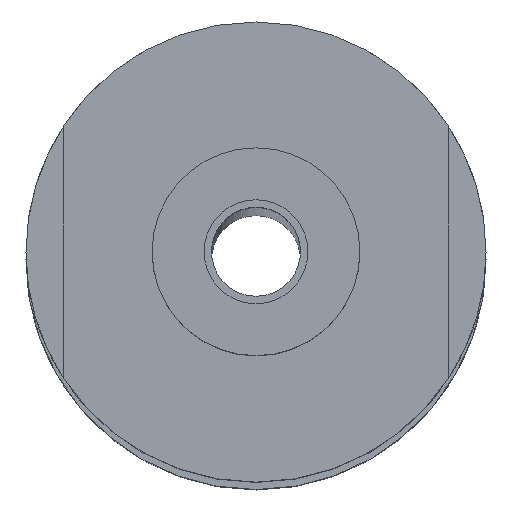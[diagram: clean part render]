
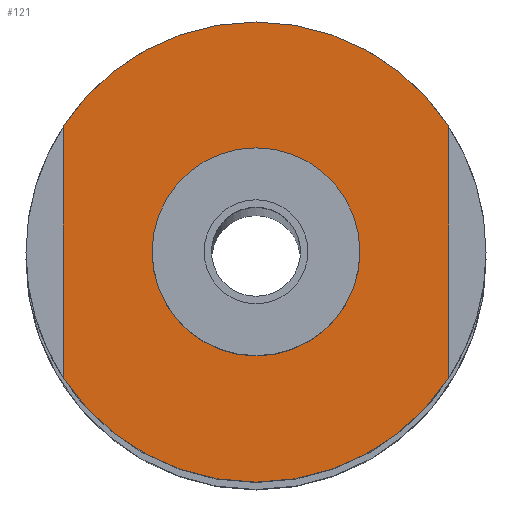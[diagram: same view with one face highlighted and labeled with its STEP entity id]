
A CAD part, top view. The second image highlights one B-rep face of the part: STEP entity #121.
In plain terms, the highlighted planar face has unit normal (0, 0, 1).
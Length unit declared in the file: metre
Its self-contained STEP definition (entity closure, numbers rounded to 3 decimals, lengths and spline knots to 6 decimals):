
#121=ADVANCED_FACE('37:1511',(#238,#239),#240,.T.);
#238=FACE_OUTER_BOUND('',#364,.T.);
#239=FACE_BOUND('',#365,.T.);
#240=PLANE('',#366);
#364=EDGE_LOOP('',(#596,#597,#598,#599,#600,#601));
#365=EDGE_LOOP('',(#602,#603));
#366=AXIS2_PLACEMENT_3D('',#604,#605,#606);
#596=ORIENTED_EDGE('',*,*,#761,.F.);
#597=ORIENTED_EDGE('',*,*,#760,.F.);
#598=ORIENTED_EDGE('',*,*,#756,.F.);
#599=ORIENTED_EDGE('',*,*,#688,.F.);
#600=ORIENTED_EDGE('',*,*,#687,.F.);
#601=ORIENTED_EDGE('',*,*,#751,.T.);
#602=ORIENTED_EDGE('',*,*,#749,.F.);
#603=ORIENTED_EDGE('',*,*,#693,.F.);
#604=CARTESIAN_POINT('',(0.0,0.0,2.665));
#605=DIRECTION('',(0.0,0.0,1.0));
#606=DIRECTION('',(1.0,0.0,0.0));
#687=EDGE_CURVE('37:1561',#812,#814,#815,.F.);
#688=EDGE_CURVE('37:1552',#814,#816,#817,.F.);
#693=EDGE_CURVE('',#822,#825,#826,.T.);
#749=EDGE_CURVE('37:1539',#825,#822,#907,.T.);
#751=EDGE_CURVE('37:3142',#812,#909,#910,.T.);
#756=EDGE_CURVE('37:2641',#816,#917,#918,.F.);
#760=EDGE_CURVE('37:1558',#917,#922,#923,.F.);
#761=EDGE_CURVE('37:1549',#922,#909,#924,.F.);
#812=VERTEX_POINT('',#1001);
#814=VERTEX_POINT('',#1004);
#815=CIRCLE('',#1005,0.0155);
#816=VERTEX_POINT('',#1006);
#817=CIRCLE('',#1007,0.0155);
#822=VERTEX_POINT('',#1013);
#825=VERTEX_POINT('',#1017);
#826=CIRCLE('',#1018,0.007);
#907=CIRCLE('',#1116,0.007);
#909=VERTEX_POINT('',#1118);
#910=LINE('',#1119,#1120);
#917=VERTEX_POINT('',#1130);
#918=LINE('',#1131,#1132);
#922=VERTEX_POINT('',#1137);
#923=CIRCLE('',#1138,0.0155);
#924=CIRCLE('',#1139,0.0155);
#1001=CARTESIAN_POINT('',(-0.013092,0.008536,2.665));
#1004=CARTESIAN_POINT('',(-0.000092,0.015595,2.665));
#1005=AXIS2_PLACEMENT_3D('',#1221,#1222,#1223);
#1006=CARTESIAN_POINT('',(0.012908,0.008536,2.665));
#1007=AXIS2_PLACEMENT_3D('',#1224,#1225,#1226);
#1013=CARTESIAN_POINT('',(0.006908,0.000095,2.665));
#1017=CARTESIAN_POINT('',(-0.007092,0.000095,2.665));
#1018=AXIS2_PLACEMENT_3D('',#1232,#1233,#1234);
#1116=AXIS2_PLACEMENT_3D('',#1318,#1319,#1320);
#1118=CARTESIAN_POINT('',(-0.013092,-0.008346,2.665));
#1119=CARTESIAN_POINT('',(-0.013092,0.000048,2.665));
#1120=VECTOR('',#1321,1.0);
#1130=CARTESIAN_POINT('',(0.012908,-0.008346,2.665));
#1131=CARTESIAN_POINT('',(0.012908,0.000048,2.665));
#1132=VECTOR('',#1325,1.0);
#1137=CARTESIAN_POINT('',(-0.000092,-0.015405,2.665));
#1138=AXIS2_PLACEMENT_3D('',#1330,#1331,#1332);
#1139=AXIS2_PLACEMENT_3D('',#1333,#1334,#1335);
#1221=CARTESIAN_POINT('',(-0.000092,0.000095,2.665));
#1222=DIRECTION('',(0.0,0.0,1.0));
#1223=DIRECTION('',(1.0,0.0,0.0));
#1224=CARTESIAN_POINT('',(-0.000092,0.000095,2.665));
#1225=DIRECTION('',(0.0,0.0,1.0));
#1226=DIRECTION('',(1.0,0.0,0.0));
#1232=CARTESIAN_POINT('',(-0.000092,0.000095,2.665));
#1233=DIRECTION('',(0.0,0.0,1.0));
#1234=DIRECTION('',(1.0,0.0,-0.0));
#1318=CARTESIAN_POINT('',(-0.000092,0.000095,2.665));
#1319=DIRECTION('',(0.0,0.0,1.0));
#1320=DIRECTION('',(1.0,0.0,-0.0));
#1321=DIRECTION('',(0.,-1.0,0.0));
#1325=DIRECTION('',(0.,1.0,0.0));
#1330=CARTESIAN_POINT('',(-0.000092,0.000095,2.665));
#1331=DIRECTION('',(0.0,0.0,1.0));
#1332=DIRECTION('',(1.0,0.0,0.0));
#1333=CARTESIAN_POINT('',(-0.000092,0.000095,2.665));
#1334=DIRECTION('',(0.0,0.0,1.0));
#1335=DIRECTION('',(1.0,0.0,0.0));
